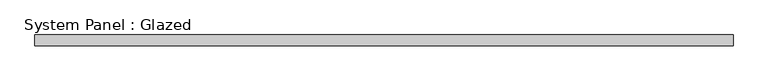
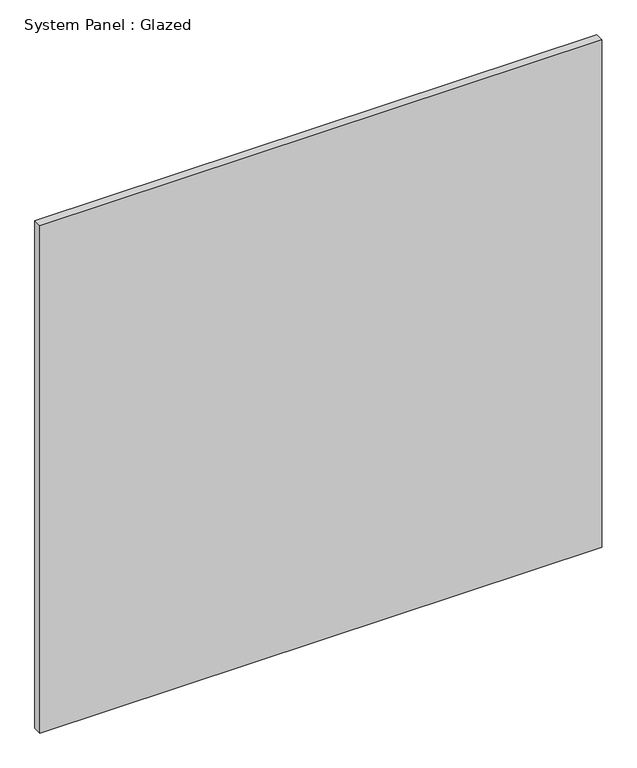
"""IFC4 building model written with IfcOpenShell, lengths in millimetres: plate geometry, System Panel : Glazed."""

from ifc_helpers import new_model, si_unit, origin, origin_with_axes, place, context, project, spatial, polyline, outline, extrude, source, transform, mapped, element, save


def system_panel_glazed_4d1e0b4b(model_context):
    return source(origin(), model_context, "Body", "SweptSolid", [
        extrude(outline(polyline([(824.7959145, 19.05), (-824.7959145, 19.05), (-824.7959145, 44.45), (824.7959145, 44.45), (824.7959145, 19.05)])), origin_with_axes(), (0.0, 0.0, 1.0), 1574.8),
    ])


if __name__ == "__main__":
    model = new_model("IFC4")
    model_context = context("Model", 3, world=origin())
    ifc_project = project(units=[si_unit("LENGTHUNIT", "METRE", prefix="MILLI")], contexts=[model_context])
    site = spatial("IfcSite", under=ifc_project)
    building = spatial("IfcBuilding", under=site)
    placement = place(None, origin())
    system_panel_glazed_shape = system_panel_glazed_4d1e0b4b(model_context)
    element("IfcPlate", 1, ObjectType="System Panel : Glazed", at=placement, inside=building, context=model_context, shape_type="MappedRepresentation", body=[
        mapped(system_panel_glazed_shape, transform((0.0, 0.0, 0.0), x_axis=(1.0, 0.0, 0.0), y_axis=(0.0, 1.0, 0.0), z_axis=(0.0, 0.0, 1.0))),
    ])
    save(model, "model.ifc")
